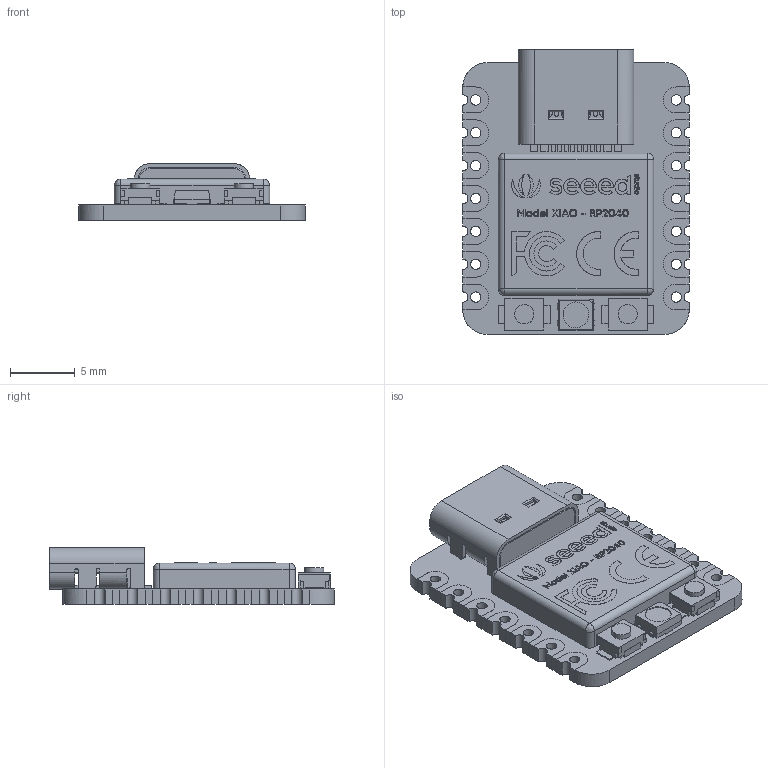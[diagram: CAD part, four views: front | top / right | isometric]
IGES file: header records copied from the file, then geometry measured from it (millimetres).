
Global section: file name: Seeed Studio XIAO RP2040 v26; native system: unknown; preprocessor: unknown; author: unknown; organization: unknown; date: 20231019.124508; units: millimetre
Bounding box: 17.5 x 22 x 4.41 mm (x, y, z)
Volume: 826.6 mm3; surface area: 2064.6 mm2
Topology: 83 solids, 83 shells, 1237 faces, 3132 edges, 2052 vertices
Faces by surface type: bspline 1237
